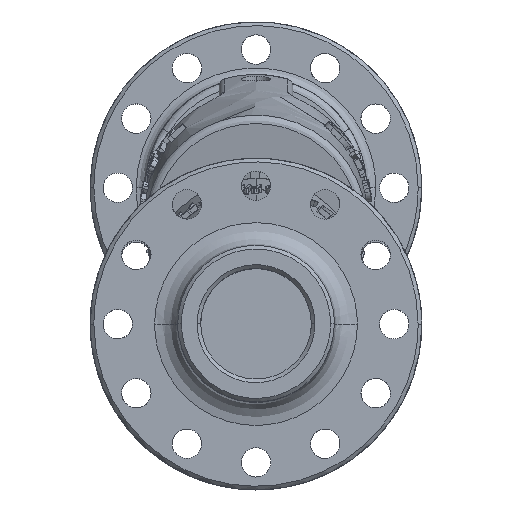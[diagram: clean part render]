
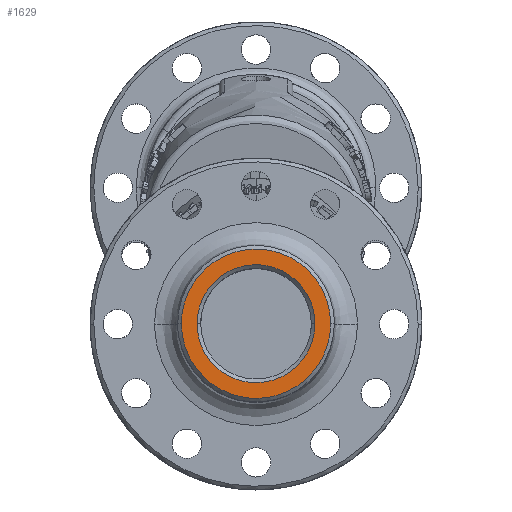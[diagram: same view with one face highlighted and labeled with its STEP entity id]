
A CAD part, top view. The second image highlights one B-rep face of the part: STEP entity #1629.
In plain terms, the highlighted free-form (B-spline) face has degree [1, 1] with [2, 2] control points.
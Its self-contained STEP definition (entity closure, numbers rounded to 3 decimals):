
#1171=CARTESIAN_POINT('',(-32.0,0.,125.0));
#1172=VERTEX_POINT('',#1171);
#1195=CARTESIAN_POINT('',(32.0,0.0,125.0));
#1196=VERTEX_POINT('',#1195);
#1202=CARTESIAN_POINT('',(-32.0,0.0,125.0));
#1203=CARTESIAN_POINT('',(-32.0,32.0,125.0));
#1204=CARTESIAN_POINT('',(0.0,32.0,125.0));
#1205=CARTESIAN_POINT('',(32.0,32.0,125.0));
#1206=CARTESIAN_POINT('',(32.0,0.0,125.0));
#1214=(BOUNDED_CURVE()B_SPLINE_CURVE(2,(#1202,#1203,#1204,#1205,#1206),.UNSPECIFIED.,.F.,.U.)B_SPLINE_CURVE_WITH_KNOTS((3,2,3),(0.0,0.5,1.0),.UNSPECIFIED.)CURVE()GEOMETRIC_REPRESENTATION_ITEM()RATIONAL_B_SPLINE_CURVE((1.0,0.707,1.0,0.707,1.0))REPRESENTATION_ITEM(''));
#1215=EDGE_CURVE('',#1172,#1196,#1214,.T.);
#1242=CARTESIAN_POINT('',(40.5,0.,125.0));
#1243=VERTEX_POINT('',#1242);
#1251=CARTESIAN_POINT('',(-40.5,0.0,125.0));
#1252=VERTEX_POINT('',#1251);
#1253=CARTESIAN_POINT('',(-40.5,0.0,125.0));
#1254=CARTESIAN_POINT('',(-40.5,-40.5,125.0));
#1255=CARTESIAN_POINT('',(0.0,-40.5,125.0));
#1256=CARTESIAN_POINT('',(40.5,-40.5,125.0));
#1257=CARTESIAN_POINT('',(40.5,0.0,125.0));
#1265=(BOUNDED_CURVE()B_SPLINE_CURVE(2,(#1253,#1254,#1255,#1256,#1257),.UNSPECIFIED.,.F.,.U.)B_SPLINE_CURVE_WITH_KNOTS((3,2,3),(0.0,0.5,1.0),.UNSPECIFIED.)CURVE()GEOMETRIC_REPRESENTATION_ITEM()RATIONAL_B_SPLINE_CURVE((1.0,0.707,1.0,0.707,1.0))REPRESENTATION_ITEM(''));
#1266=EDGE_CURVE('',#1252,#1243,#1265,.T.);
#1588=CARTESIAN_POINT('',(48.6,48.6,125.0));
#1589=CARTESIAN_POINT('',(-48.6,48.6,125.0));
#1590=CARTESIAN_POINT('',(48.6,-48.6,125.0));
#1591=CARTESIAN_POINT('',(-48.6,-48.6,125.0));
#1592=B_SPLINE_SURFACE_WITH_KNOTS('',1,1,((#1588,#1590),(#1589,#1591)),.UNSPECIFIED.,.F.,.F.,.U.,(2,2),(2,2),(0.0,97.2),(0.0,97.2),.UNSPECIFIED.);
#1593=ORIENTED_EDGE('',*,*,#1266,.T.);
#1594=CARTESIAN_POINT('',(40.5,0.0,125.0));
#1595=CARTESIAN_POINT('',(40.5,40.5,125.0));
#1596=CARTESIAN_POINT('',(0.0,40.5,125.0));
#1597=CARTESIAN_POINT('',(-40.5,40.5,125.0));
#1598=CARTESIAN_POINT('',(-40.5,0.0,125.0));
#1606=(BOUNDED_CURVE()B_SPLINE_CURVE(2,(#1594,#1595,#1596,#1597,#1598),.UNSPECIFIED.,.F.,.U.)B_SPLINE_CURVE_WITH_KNOTS((3,2,3),(0.0,0.5,1.0),.UNSPECIFIED.)CURVE()GEOMETRIC_REPRESENTATION_ITEM()RATIONAL_B_SPLINE_CURVE((1.0,0.707,1.0,0.707,1.0))REPRESENTATION_ITEM(''));
#1607=EDGE_CURVE('',#1243,#1252,#1606,.T.);
#1608=ORIENTED_EDGE('',*,*,#1607,.T.);
#1609=EDGE_LOOP('',(#1593,#1608));
#1610=FACE_OUTER_BOUND('',#1609,.T.);
#1611=CARTESIAN_POINT('',(32.0,0.0,125.0));
#1612=CARTESIAN_POINT('',(32.0,-32.0,125.0));
#1613=CARTESIAN_POINT('',(0.0,-32.0,125.0));
#1614=CARTESIAN_POINT('',(-32.0,-32.0,125.0));
#1615=CARTESIAN_POINT('',(-32.0,0.0,125.0));
#1623=(BOUNDED_CURVE()B_SPLINE_CURVE(2,(#1611,#1612,#1613,#1614,#1615),.UNSPECIFIED.,.F.,.U.)B_SPLINE_CURVE_WITH_KNOTS((3,2,3),(0.0,0.5,1.0),.UNSPECIFIED.)CURVE()GEOMETRIC_REPRESENTATION_ITEM()RATIONAL_B_SPLINE_CURVE((1.0,0.707,1.0,0.707,1.0))REPRESENTATION_ITEM(''));
#1624=EDGE_CURVE('',#1196,#1172,#1623,.T.);
#1625=ORIENTED_EDGE('',*,*,#1624,.T.);
#1626=ORIENTED_EDGE('',*,*,#1215,.T.);
#1627=EDGE_LOOP('',(#1625,#1626));
#1628=FACE_BOUND('',#1627,.T.);
#1629=ADVANCED_FACE('',(#1610,#1628),#1592,.T.);
